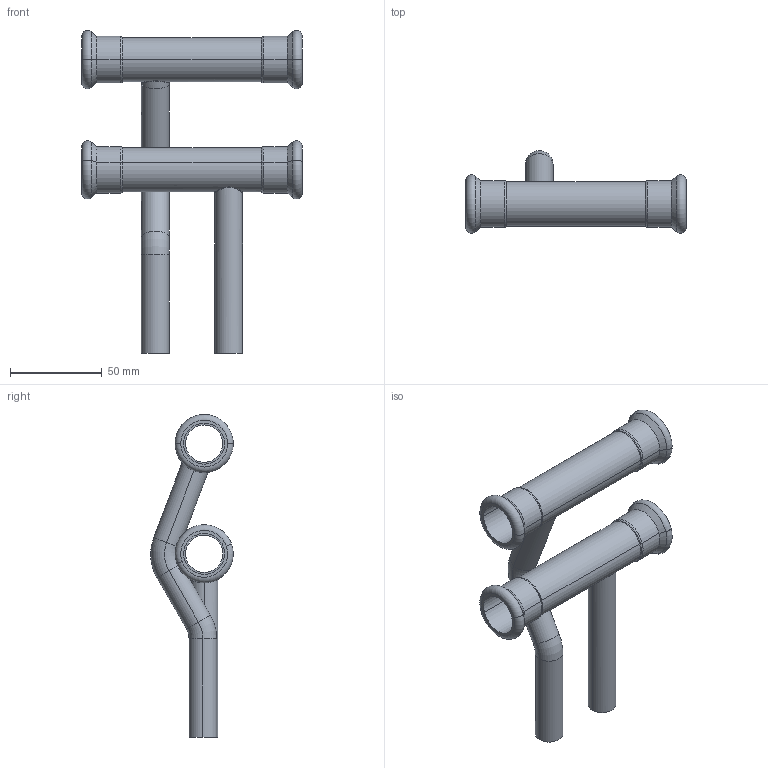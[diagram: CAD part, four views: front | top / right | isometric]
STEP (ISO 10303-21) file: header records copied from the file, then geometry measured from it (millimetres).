
FILE_DESCRIPTION(('CoCreate Modeling STEP Export'),'2;1');
FILE_NAME('C1437 22x15.stp','2015-08-13T 9:30:11',(''),(''),'CoCreate Modeling STEP processor for AP214 (Solid Model)','CoCreate Modeling 17.00A 17-Jun-2010 (C) Parametric Technology GmbH','');
FILE_SCHEMA(('AUTOMOTIVE_DESIGN { 1 0 10303 214 1 1 1 1 }'));
Length unit declared in the file: millimetre
Products named in the file (4): 620868.6.1.2; 620868.6.1.1.1; 620862.0.1; C1437-22x15
Assembly tree (3 placements, depth 2):
  C1437-22x15
    620862.0.1
    620868.6.1.1.1
    620868.6.1.2
Bounding box: 120 x 44.95 x 175.85 mm (x, y, z)
Volume: 47865.9 mm3; surface area: 57699.8 mm2
Topology: 3 solids, 3 shells, 112 faces, 238 edges, 142 vertices
Faces by surface type: cylinder 52, torus 24, plane 16, cone 16, bspline 4
Entity records: 6743 total; most frequent: CARTESIAN_POINT 4574, ORIENTED_EDGE 476, DIRECTION 376, EDGE_CURVE 238, AXIS2_PLACEMENT_3D 154, VERTEX_POINT 142, EDGE_LOOP 132, FACE_OUTER_BOUND 112
